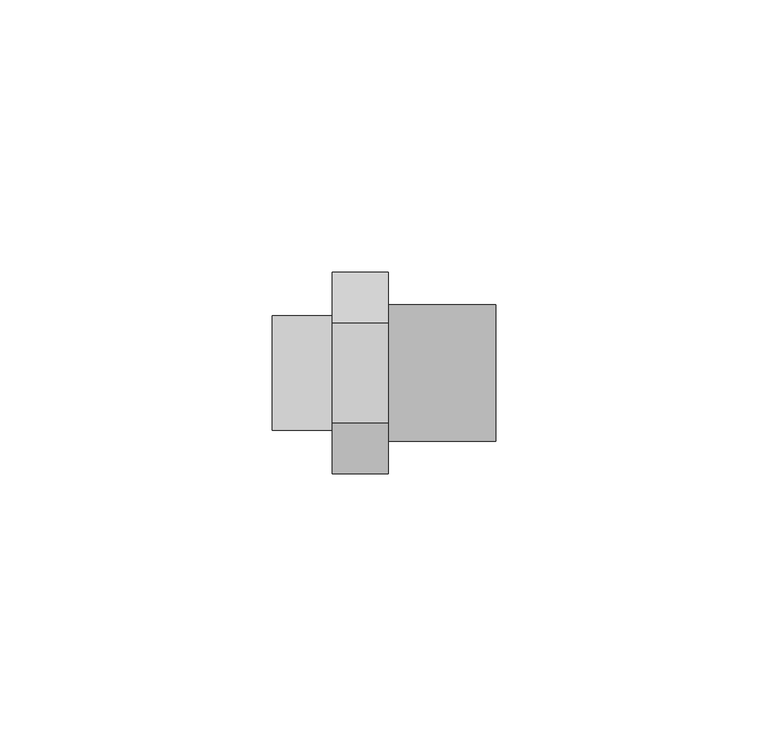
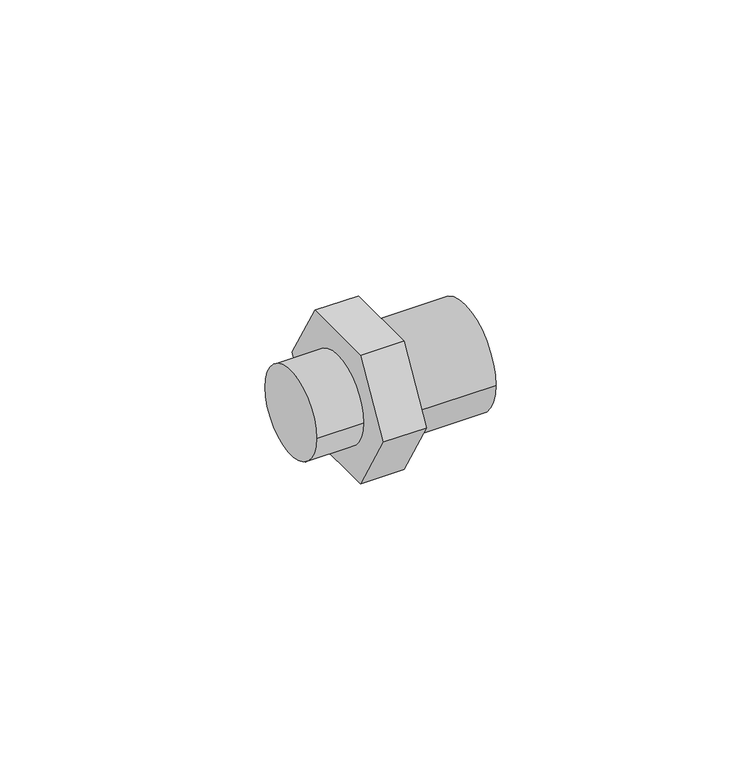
"""IFC4 building model written with IfcOpenShell, lengths in millimetres: pipe fitting geometry, 01101008_ : Mamelons de réduction multiples FxMxF."""

from ifc_helpers import new_model, si_unit, point, frame, origin, origin_2d, place, context, project, spatial, polyline, circle_curve, trimmed, segment, composite_curve, outline, extrude, source, transform, mapped, element, save


def pipe_fitting_b077f62d(model_context):
    return source(origin(), model_context, "Body", "SweptSolid", [
        extrude(outline(composite_curve([segment(trimmed(circle_curve(origin_2d(), 10.5), [point((10.5, 0.0))], [point((-10.5, 0.0))], False, "CARTESIAN"), True, "CONTINUOUS"), segment(trimmed(circle_curve(origin_2d(), 10.5), [point((-10.5, 0.0))], [point((10.5, 0.0))], False, "CARTESIAN"), True, "CONTINUOUS")], self_intersect=False)), frame((0.0, 0.0, 0.0), z_axis=(1.0, 0.0, 0.0), x_axis=(0.0, 1.0, 0.0)), (0.0, 0.0, 1.0), 11.0),
        extrude(outline(polyline([(-9.2376043, 16.0), (9.2376043, 16.0), (18.4752086, 0.0), (9.2376043, -16.0), (-9.2376043, -16.0), (-18.4752086, 0.0), (-9.2376043, 16.0)])), frame((11.0, 0.0, 0.0), z_axis=(1.0, 0.0, 0.0), x_axis=(0.0, 1.0, 0.0)), (0.0, 0.0, 1.0), 10.25),
        extrude(outline(composite_curve([segment(trimmed(circle_curve(origin_2d(), 12.5), [point((-12.5, 0.0))], [point((12.5, 0.0))], False, "CARTESIAN"), True, "CONTINUOUS"), segment(trimmed(circle_curve(origin_2d(), 12.5), [point((12.5, 0.0))], [point((-12.5, 0.0))], False, "CARTESIAN"), True, "CONTINUOUS")], self_intersect=False)), frame((21.25, 0.0, 0.0), z_axis=(1.0, 0.0, 0.0), x_axis=(0.0, 1.0, 0.0)), (0.0, 0.0, 1.0), 19.75),
    ])


if __name__ == "__main__":
    model = new_model("IFC4")
    model_context = context("Model", 3, world=origin())
    ifc_project = project(units=[si_unit("LENGTHUNIT", "METRE", prefix="MILLI")], contexts=[model_context])
    site = spatial("IfcSite", under=ifc_project)
    building = spatial("IfcBuilding", under=site)
    placement = place(None, origin())
    pipe_fitting_shape = pipe_fitting_b077f62d(model_context)
    element("IfcPipeFitting", 1, ObjectType="01101008_ : Mamelons de réduction multiples FxMxF", at=placement, inside=building, context=model_context, shape_type="MappedRepresentation", body=[
        mapped(pipe_fitting_shape, transform((0.0, 0.0, 0.0), x_axis=(1.0, 0.0, 0.0), y_axis=(0.0, 1.0, 0.0), z_axis=(0.0, 0.0, 1.0))),
    ])
    save(model, "model.ifc")
